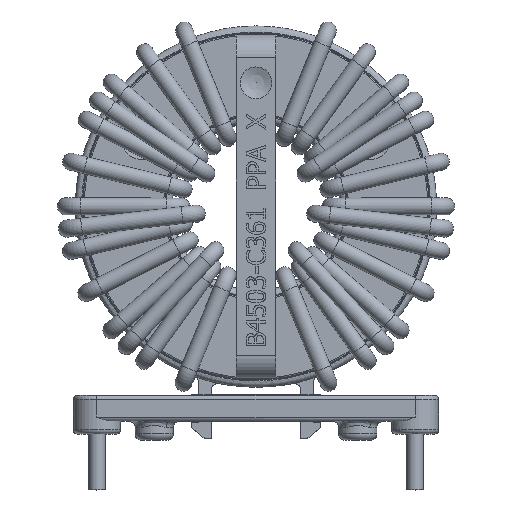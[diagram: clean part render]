
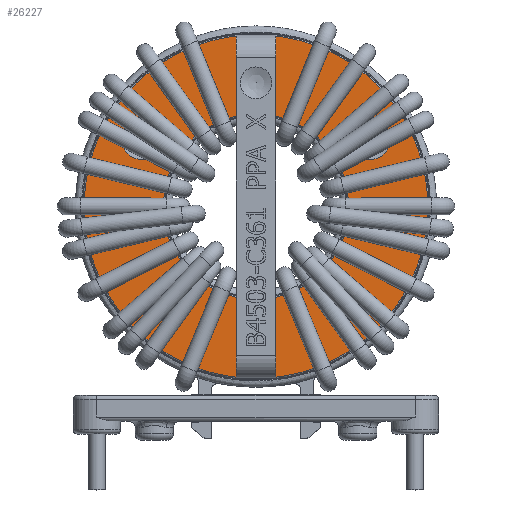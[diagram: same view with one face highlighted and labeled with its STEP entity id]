
A CAD part, top view. The second image highlights one B-rep face of the part: STEP entity #26227.
In plain terms, the highlighted planar face has unit normal (0, 0, 1).
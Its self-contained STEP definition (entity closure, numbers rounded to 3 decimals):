
#464=FACE_BOUND('',#6777,.T.);
#465=FACE_BOUND('',#6778,.T.);
#466=FACE_BOUND('',#6779,.T.);
#625=PLANE('',#27791);
#1308=LINE('',#37500,#3265);
#1309=LINE('',#37502,#3266);
#1310=LINE('',#37504,#3267);
#1311=LINE('',#37505,#3268);
#1312=LINE('',#37507,#3269);
#1313=LINE('',#37508,#3270);
#3265=VECTOR('',#30346,10.);
#3266=VECTOR('',#30347,10.);
#3267=VECTOR('',#30348,10.);
#3268=VECTOR('',#30349,10.);
#3269=VECTOR('',#30350,10.);
#3270=VECTOR('',#30351,10.);
#5408=FACE_OUTER_BOUND('',#6776,.T.);
#6776=EDGE_LOOP('',(#17432));
#6777=EDGE_LOOP('',(#17433,#17434,#17435,#17436,#17437,#17438,#17439,#17440));
#6778=EDGE_LOOP('',(#17441));
#6779=EDGE_LOOP('',(#17442));
#9161=CIRCLE('',#27780,1.5);
#9163=CIRCLE('',#27783,1.5);
#9165=CIRCLE('',#27786,7.3);
#9166=CIRCLE('',#27787,7.3);
#9170=CIRCLE('',#27792,13.5);
#10350=VERTEX_POINT('',#37465);
#10352=VERTEX_POINT('',#37469);
#10353=VERTEX_POINT('',#37473);
#10354=VERTEX_POINT('',#37475);
#10355=VERTEX_POINT('',#37479);
#10357=VERTEX_POINT('',#37484);
#10361=VERTEX_POINT('',#37497);
#10362=VERTEX_POINT('',#37499);
#10363=VERTEX_POINT('',#37501);
#10364=VERTEX_POINT('',#37503);
#10365=VERTEX_POINT('',#37506);
#13129=EDGE_CURVE('',#10355,#10355,#9161,.T.);
#13131=EDGE_CURVE('',#10357,#10357,#9163,.T.);
#13133=EDGE_CURVE('',#10350,#10354,#9165,.T.);
#13134=EDGE_CURVE('',#10353,#10352,#9166,.T.);
#13138=EDGE_CURVE('',#10361,#10361,#9170,.T.);
#13139=EDGE_CURVE('',#10352,#10362,#1308,.T.);
#13140=EDGE_CURVE('',#10363,#10353,#1309,.T.);
#13141=EDGE_CURVE('',#10364,#10363,#1310,.T.);
#13142=EDGE_CURVE('',#10354,#10364,#1311,.T.);
#13143=EDGE_CURVE('',#10365,#10350,#1312,.T.);
#13144=EDGE_CURVE('',#10362,#10365,#1313,.T.);
#17432=ORIENTED_EDGE('',*,*,#13138,.F.);
#17433=ORIENTED_EDGE('',*,*,#13139,.F.);
#17434=ORIENTED_EDGE('',*,*,#13134,.F.);
#17435=ORIENTED_EDGE('',*,*,#13140,.F.);
#17436=ORIENTED_EDGE('',*,*,#13141,.F.);
#17437=ORIENTED_EDGE('',*,*,#13142,.F.);
#17438=ORIENTED_EDGE('',*,*,#13133,.F.);
#17439=ORIENTED_EDGE('',*,*,#13143,.F.);
#17440=ORIENTED_EDGE('',*,*,#13144,.F.);
#17441=ORIENTED_EDGE('',*,*,#13129,.T.);
#17442=ORIENTED_EDGE('',*,*,#13131,.T.);
#26227=ADVANCED_FACE('',(#5408,#464,#465,#466),#625,.F.);
#27780=AXIS2_PLACEMENT_3D('',#37480,#30320,#30321);
#27783=AXIS2_PLACEMENT_3D('',#37485,#30326,#30327);
#27786=AXIS2_PLACEMENT_3D('',#37489,#30332,#30333);
#27787=AXIS2_PLACEMENT_3D('',#37490,#30334,#30335);
#27791=AXIS2_PLACEMENT_3D('',#37496,#30342,#30343);
#27792=AXIS2_PLACEMENT_3D('',#37498,#30344,#30345);
#30320=DIRECTION('center_axis',(0.,0.,
-1.));
#30321=DIRECTION('ref_axis',(1.,0.,0.));
#30326=DIRECTION('center_axis',(0.,0.,
-1.));
#30327=DIRECTION('ref_axis',(1.,0.,0.));
#30332=DIRECTION('center_axis',(0.,0.,
1.));
#30333=DIRECTION('ref_axis',(0.,-1.,0.));
#30334=DIRECTION('center_axis',(0.,0.,
1.));
#30335=DIRECTION('ref_axis',(0.,-1.,0.));
#30342=DIRECTION('center_axis',(0.,0.,
-1.));
#30343=DIRECTION('ref_axis',(0.,-1.,0.));
#30344=DIRECTION('center_axis',(0.,0.,
-1.));
#30345=DIRECTION('ref_axis',(0.,-1.,0.));
#30346=DIRECTION('',(0.,1.,0.));
#30347=DIRECTION('',(0.,1.,0.));
#30348=DIRECTION('',(1.,0.,0.));
#30349=DIRECTION('',(0.,-1.,0.));
#30350=DIRECTION('',(0.,-1.,0.));
#30351=DIRECTION('',(-1.,0.,0.));
#37465=CARTESIAN_POINT('',(-1.55,23.984,6.4));
#37469=CARTESIAN_POINT('',(1.55,23.984,6.4));
#37473=CARTESIAN_POINT('',(1.55,9.716,6.4));
#37475=CARTESIAN_POINT('',(-1.55,9.716,6.4));
#37479=CARTESIAN_POINT('',(7.708,21.3,6.4));
#37480=CARTESIAN_POINT('Origin',(9.007,22.05,6.4));
#37484=CARTESIAN_POINT('',(-7.708,21.3,6.4));
#37485=CARTESIAN_POINT('Origin',(-9.007,22.05,6.4));
#37489=CARTESIAN_POINT('Origin',(0.,16.85,6.4));
#37490=CARTESIAN_POINT('Origin',(0.,16.85,6.4));
#37496=CARTESIAN_POINT('Origin',(0.,16.85,6.4));
#37497=CARTESIAN_POINT('',(0.,30.35,6.4));
#37498=CARTESIAN_POINT('Origin',(0.,16.85,6.4));
#37499=CARTESIAN_POINT('',(1.55,30.25,6.4));
#37500=CARTESIAN_POINT('',(1.55,3.35,6.4));
#37501=CARTESIAN_POINT('',(1.55,3.45,6.4));
#37502=CARTESIAN_POINT('',(1.55,3.35,6.4));
#37503=CARTESIAN_POINT('',(-1.55,3.45,6.4));
#37504=CARTESIAN_POINT('',(0.775,3.45,6.4));
#37505=CARTESIAN_POINT('',(-1.55,30.35,6.4));
#37506=CARTESIAN_POINT('',(-1.55,30.25,6.4));
#37507=CARTESIAN_POINT('',(-1.55,30.35,6.4));
#37508=CARTESIAN_POINT('',(-0.775,30.25,6.4));
